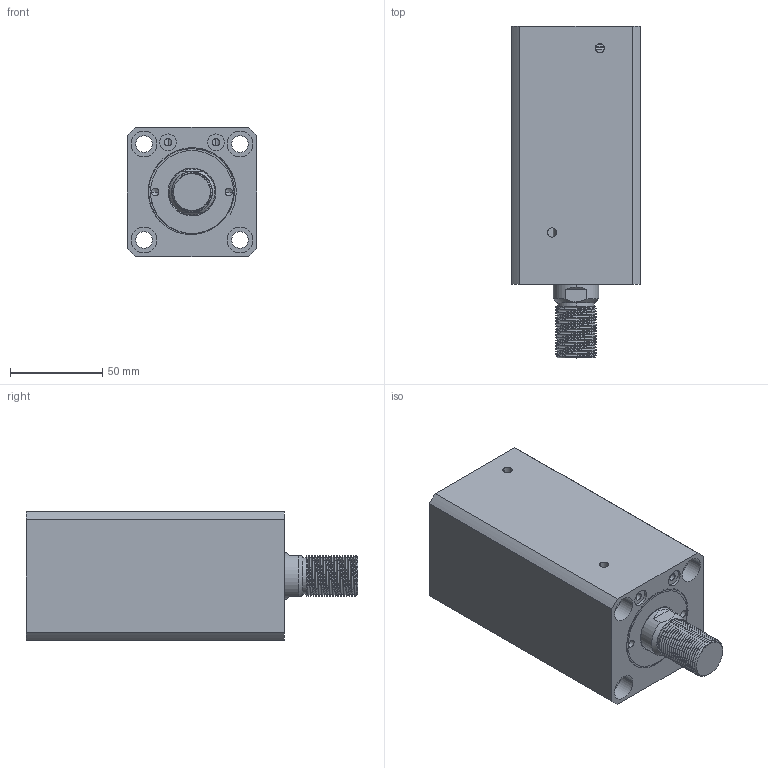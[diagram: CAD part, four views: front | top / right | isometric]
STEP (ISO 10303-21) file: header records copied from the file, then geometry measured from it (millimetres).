
FILE_DESCRIPTION (( 'STEP AP214' ), '1' );
FILE_NAME ('chtb-sdma40x85w_asm.STEP', '2018-06-06T02:25:16', ( 'Windows' ), ( 'Microsoft' ), 'SwSTEP 2.0', 'SolidWorks 2015', '' );
FILE_SCHEMA (( 'AUTOMOTIVE_DESIGN' ));
Length unit declared in the file: millimetre
Products named in the file (4): chtb-sdma40x85w_asm; CHTB-SD40X85WHSG; CHTB-SD40QG; CHTB-SDMA40X85NBT
Assembly tree (3 placements, depth 2):
  chtb-sdma40x85w_asm
    CHTB-SD40X85WHSG
    CHTB-SDMA40X85NBT
    CHTB-SD40QG
Bounding box: 70 x 180 x 70 mm (x, y, z)
Volume: 581710.8 mm3; surface area: 113525.6 mm2
Topology: 3 solids, 4 shells, 203 faces, 545 edges, 363 vertices
Faces by surface type: cylinder 122, plane 40, bspline 16, torus 14, cone 11
Entity records: 13587 total; most frequent: CARTESIAN_POINT 8658, ORIENTED_EDGE 1078, DIRECTION 914, EDGE_CURVE 539, AXIS2_PLACEMENT_3D 378, VERTEX_POINT 363, EDGE_LOOP 240, FACE_OUTER_BOUND 203
